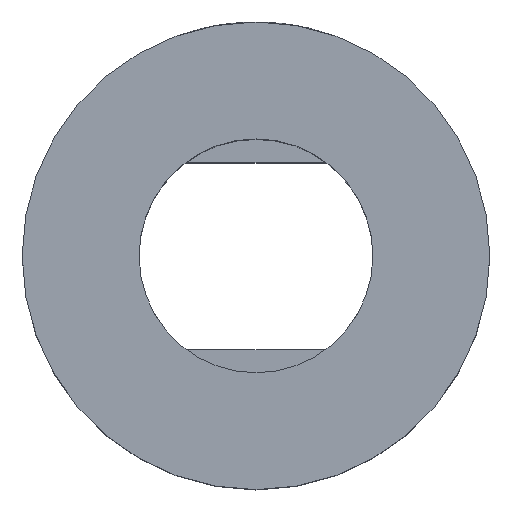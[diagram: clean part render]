
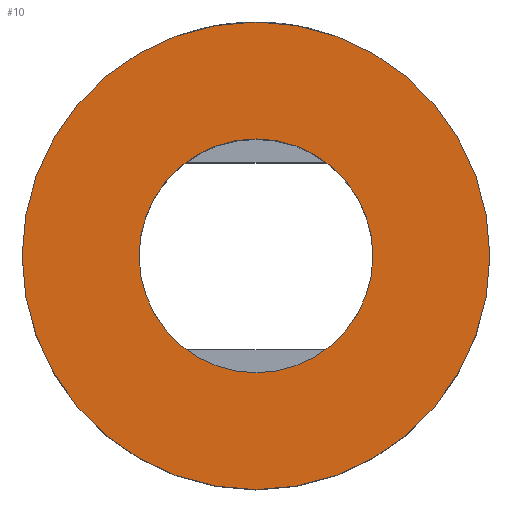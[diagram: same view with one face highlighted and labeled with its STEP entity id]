
A CAD part, top view. The second image highlights one B-rep face of the part: STEP entity #10.
In plain terms, the highlighted planar face has unit normal (0, 0, 1).
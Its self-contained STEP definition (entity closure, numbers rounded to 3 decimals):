
#10 = ADVANCED_FACE ( 'NONE', ( #281, #255 ), #939, .T. ) ;
#26 = AXIS2_PLACEMENT_3D ( 'NONE', #1528, #1561, #1577 ) ;
#28 = EDGE_CURVE ( 'NONE', #108, #95, #271, .T. ) ;
#48 = AXIS2_PLACEMENT_3D ( 'NONE', #965, #941, #964 ) ;
#69 = AXIS2_PLACEMENT_3D ( 'NONE', #1420, #1445, #1421 ) ;
#71 = AXIS2_PLACEMENT_3D ( 'NONE', #1437, #1439, #1436 ) ;
#77 = AXIS2_PLACEMENT_3D ( 'NONE', #1456, #1438, #1425 ) ;
#95 = VERTEX_POINT ( 'NONE', #1253 ) ;
#98 = VERTEX_POINT ( 'NONE', #1246 ) ;
#108 = VERTEX_POINT ( 'NONE', #1215 ) ;
#116 = VERTEX_POINT ( 'NONE', #1231 ) ;
#144 = ORIENTED_EDGE ( 'NONE', *, *, #1621, .T. ) ;
#158 = ORIENTED_EDGE ( 'NONE', *, *, #1622, .F. ) ;
#164 = ORIENTED_EDGE ( 'NONE', *, *, #28, .F. ) ;
#170 = ORIENTED_EDGE ( 'NONE', *, *, #1623, .T. ) ;
#195 = EDGE_LOOP ( 'NONE', ( #144, #170 ) ) ;
#214 = EDGE_LOOP ( 'NONE', ( #164, #158 ) ) ;
#255 = FACE_OUTER_BOUND ( 'NONE', #195, .T. ) ;
#271 = CIRCLE ( 'NONE', #26, 2.5 ) ;
#281 = FACE_BOUND ( 'NONE', #214, .T. ) ;
#307 = CIRCLE ( 'NONE', #77, 5. ) ;
#309 = CIRCLE ( 'NONE', #69, 2.5 ) ;
#341 = CIRCLE ( 'NONE', #71, 5. ) ;
#939 = PLANE ( 'NONE',  #48 ) ;
#941 = DIRECTION ( 'NONE',  ( 0., 0., 1. ) ) ;
#964 = DIRECTION ( 'NONE',  ( 1., 0., 0. ) ) ;
#965 = CARTESIAN_POINT ( 'NONE',  ( 0., 0., 10. ) ) ;
#1215 = CARTESIAN_POINT ( 'NONE',  ( 2.5, 0., 10. ) ) ;
#1231 = CARTESIAN_POINT ( 'NONE',  ( -5., 0., 10. ) ) ;
#1246 = CARTESIAN_POINT ( 'NONE',  ( 5., 0., 10. ) ) ;
#1253 = CARTESIAN_POINT ( 'NONE',  ( -2.5, 0., 10. ) ) ;
#1420 = CARTESIAN_POINT ( 'NONE',  ( 0., 0., 10. ) ) ;
#1421 = DIRECTION ( 'NONE',  ( 1., 0., 0. ) ) ;
#1425 = DIRECTION ( 'NONE',  ( 1., 0., 0. ) ) ;
#1436 = DIRECTION ( 'NONE',  ( 1., 0., 0. ) ) ;
#1437 = CARTESIAN_POINT ( 'NONE',  ( 0., 0., 10. ) ) ;
#1438 = DIRECTION ( 'NONE',  ( 0., 0., 1. ) ) ;
#1439 = DIRECTION ( 'NONE',  ( 0., 0., 1. ) ) ;
#1445 = DIRECTION ( 'NONE',  ( 0., 0., 1. ) ) ;
#1456 = CARTESIAN_POINT ( 'NONE',  ( 0., 0., 10. ) ) ;
#1528 = CARTESIAN_POINT ( 'NONE',  ( 0., 0., 10. ) ) ;
#1561 = DIRECTION ( 'NONE',  ( 0., 0., 1. ) ) ;
#1577 = DIRECTION ( 'NONE',  ( 1., 0., 0. ) ) ;
#1621 = EDGE_CURVE ( 'NONE', #98, #116, #341, .T. ) ;
#1622 = EDGE_CURVE ( 'NONE', #95, #108, #309, .T. ) ;
#1623 = EDGE_CURVE ( 'NONE', #116, #98, #307, .T. ) ;
